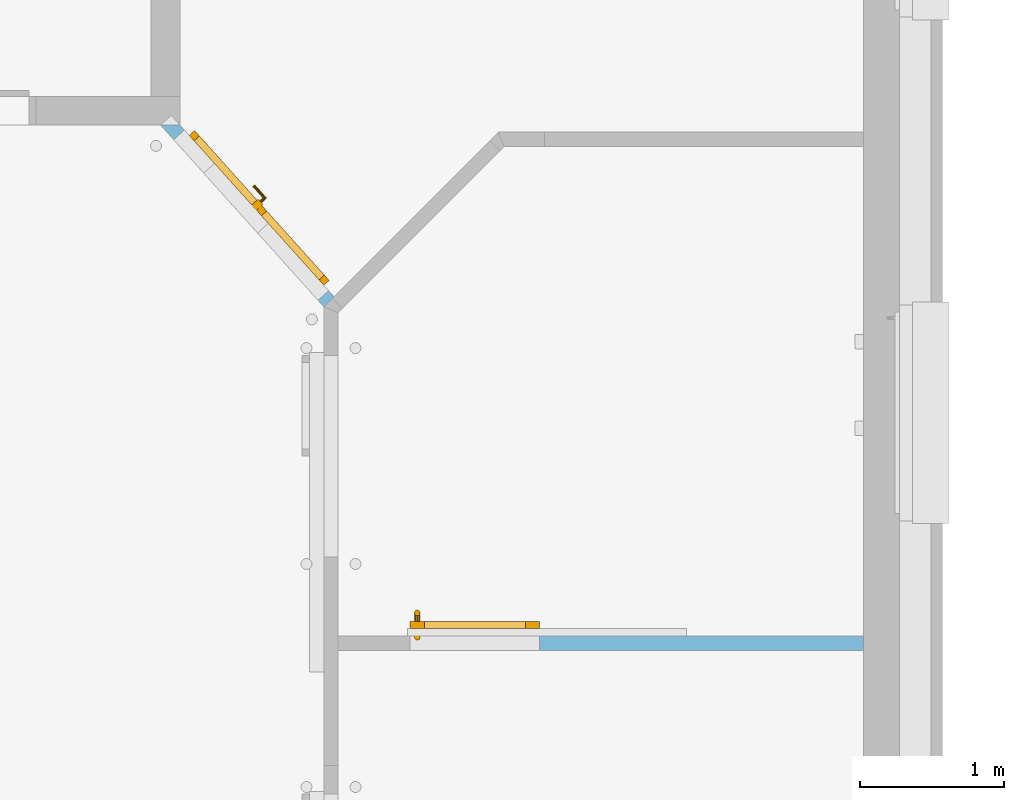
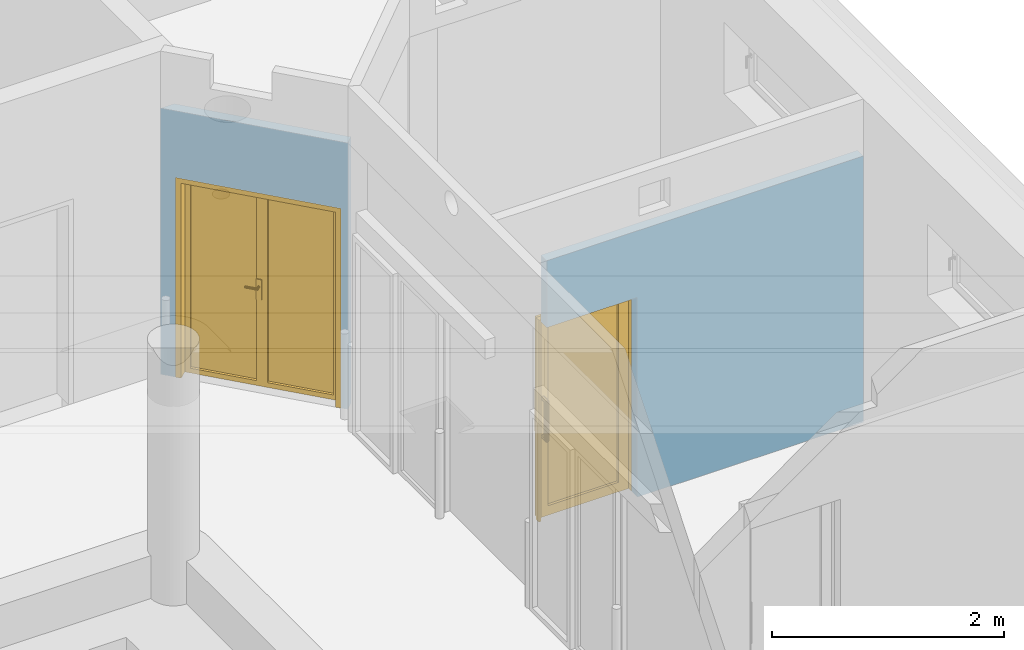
# One storey, part 116 of 140: 2 doors, 2 openings, plus 2 elements that do not belong to this part.
"""IFC4 building model written with IfcOpenShell, lengths in metres."""

from ifc_helpers import new_model, entity, si_unit, converted_unit, derived_unit, frame, frame_2d, origin, origin_with_axes, place, context, subcontext, project, spatial, polyline, rectangle, outline, extrude, closed_shell, open_shell, surface_model, source, transform, mapped, material, layer, layer_set, layer_usage, type_object, element, fill, save


model = new_model("IFC4")

# Units and contexts
model_context = context("Model", 3, precision=1e-05, world=origin())
body_context = subcontext(model_context, "Body", "Model", "MODEL_VIEW")
ifc_project = project(units=[si_unit("LENGTHUNIT", "METRE"), si_unit("AREAUNIT", "SQUARE_METRE"), si_unit("VOLUMEUNIT", "CUBIC_METRE"), si_unit("MASSUNIT", "GRAM", prefix="KILO"), converted_unit("PLANEANGLEUNIT", "DEGREE", entity("IfcPlaneAngleMeasure", 0.0174532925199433), si_unit("PLANEANGLEUNIT", "RADIAN"), dimensions=[0, 0, 0, 0, 0, 0, 0]), derived_unit("THERMALTRANSMITTANCEUNIT", [(si_unit("POWERUNIT", "WATT"), 1), (si_unit("THERMODYNAMICTEMPERATUREUNIT", "KELVIN"), -1), (si_unit("LENGTHUNIT", "METRE"), -2)]), derived_unit("VOLUMETRICFLOWRATEUNIT", [(si_unit("LENGTHUNIT", "METRE"), 3), (converted_unit("TIMEUNIT", "hour", entity("IfcTimeMeasure", 3600.0), si_unit("TIMEUNIT", "SECOND"), dimensions=[0, 0, 1, 0, 0, 0, 0]), -1), (si_unit("LENGTHUNIT", "METRE"), -1)])], contexts=[model_context])

# Site, building, storey
site_placement = place(None, origin())
site = spatial("IfcSite", under=ifc_project, at=site_placement, Name="3. ASŘ", CompositionType="ELEMENT")
building_placement = place(site_placement, origin())
building = spatial("IfcBuilding", under=site, at=building_placement, Name="Pavilon C", CompositionType="ELEMENT")
storey_placement = place(building_placement, origin())
storey = spatial("IfcBuildingStorey", under=building, at=storey_placement, Name="Půdorys 1.NP", CompositionType="ELEMENT", Elevation=0.0)

# Wall, opening, door
ifc_material_1 = material(Name="PROSKLENÁ PŘÍČKA DVOJITÁ")
ifc_layer_1 = layer(ifc_material_1, 0.0999999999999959)
ifc_layer_set_1 = layer_set([ifc_layer_1])
ifc_layer_usage_1 = layer_usage(ifc_layer_set_1, "AXIS2", "POSITIVE", 0.0)
wall_1_placement = place(storey_placement, frame((58.665792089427, 27.65, 0.0), z_axis=(0.0, 0.0, 1.0), x_axis=(0.668228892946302, -0.743955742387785, 0.0)))
wall_1 = element("IfcWall", 1, at=wall_1_placement, inside=storey, material=ifc_layer_usage_1, Name="PROSKLENÁ PŘÍČKA DVOJITÁ", context=body_context, shape_type="SweptSolid", body=[
    extrude(outline(polyline([(-0.939423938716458, 0.843800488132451), (0.757910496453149, 0.843800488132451), (0.752548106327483, 0.943800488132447), (-0.849602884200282, 0.943800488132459), (-0.939423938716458, 0.843800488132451)])), frame((0.939423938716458, -0.843800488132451, 0.0), z_axis=(0.0, 0.0, 1.0), x_axis=(1.0, 0.0, 0.0)), (0.0, 0.0, 1.0), 2.8),
])
opening_1_placement = place(wall_1_placement, frame((0.136584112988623, 6.25277607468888e-16, 0.0), z_axis=(5.68434188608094e-15, 1.0, 0.0), x_axis=(0.0, 0.0, 1.0)))
opening_1 = element("IfcOpeningElement", 2, at=opening_1_placement, cuts=wall_1, Name="Dveřní otvor", ObjectType="Opening", context=body_context, shape_type="SweptSolid", body=[
    extrude(outline(polyline([(0.0, 1.49999999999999), (2.1, 1.49999999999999), (2.1, 0.0), (0.0, 0.0), (0.0, 1.49999999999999)])), origin_with_axes(), (0.0, 0.0, 1.0), 0.100000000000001),
])
door_type_1 = type_object("IfcDoorType", Name="I.DH20", OperationType="NOTDEFINED", ParameterTakesPrecedence=False, PredefinedType="DOOR")
shared_shape_1 = source(origin_with_axes(), body_context, "Body", "SurfaceModel", [
    surface_model("IfcShellBasedSurfaceModel", [(0.0, 0.1, 2.1), (0.0, 0.1, 8.08762071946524e-18), (0.05, 0.1, 8.08762071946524e-18), (0.05, 0.1, 2.1), (0.0, 0.0, 2.03340887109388e-17), (0.0, 2.55795384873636e-16, 2.1), (0.05, 2.55795384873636e-16, 2.1), (0.05, 0.0, 2.03340887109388e-17)], [closed_shell([[[0, 1, 2, 3]], [[4, 5, 6, 7]], [[1, 0, 5, 4]], [[2, 1, 4, 7]], [[3, 2, 7, 6]], [[0, 3, 6, 5]]], orient=[[False], [False], [False], [False], [False], [False]])]),
    surface_model("IfcShellBasedSurfaceModel", [(1.45, 0.1, 2.1), (1.45, 0.1, 8.08762071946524e-18), (1.5, 0.1, 8.08762071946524e-18), (1.5, 0.1, 2.1), (1.45, 0.0, 2.03340887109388e-17), (1.45, 2.55795384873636e-16, 2.1), (1.5, 2.55795384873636e-16, 2.1), (1.5, 0.0, 2.03340887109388e-17)], [closed_shell([[[0, 1, 2, 3]], [[4, 5, 6, 7]], [[1, 0, 5, 4]], [[2, 1, 4, 7]], [[3, 2, 7, 6]], [[0, 3, 6, 5]]], orient=[[False], [False], [False], [False], [False], [False]])]),
    surface_model("IfcShellBasedSurfaceModel", [(0.05, 0.1, 2.1), (0.05, 0.1, 2.05), (1.45, 0.1, 2.05), (1.45, 0.1, 2.1), (0.05, 2.55795384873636e-16, 2.05), (0.05, 2.55795384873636e-16, 2.1), (1.45, 2.55795384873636e-16, 2.1), (1.45, 2.55795384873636e-16, 2.05)], [closed_shell([[[0, 1, 2, 3]], [[4, 5, 6, 7]], [[1, 0, 5, 4]], [[2, 1, 4, 7]], [[3, 2, 7, 6]], [[0, 3, 6, 5]]], orient=[[False], [False], [False], [False], [False], [False]])]),
    surface_model("IfcShellBasedSurfaceModel", [(0.05, 0.15, 2.05), (0.05, 0.15, 1.96438672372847e-18), (0.1, 0.15, 1.96438672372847e-18), (0.1, 0.15, 2.05), (0.05, 0.1, 8.08762071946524e-18), (0.05, 0.1, 2.05), (0.1, 0.1, 2.05), (0.1, 0.1, 8.08762071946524e-18)], [closed_shell([[[0, 1, 2, 3]], [[4, 5, 6, 7]], [[1, 0, 5, 4]], [[2, 1, 4, 7]], [[3, 2, 7, 6]], [[0, 3, 6, 5]]], orient=[[False], [False], [False], [False], [False], [False]])]),
    surface_model("IfcShellBasedSurfaceModel", [(0.6995, 0.15, 2.05), (0.6995, 0.15, 1.96438672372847e-18), (0.7495, 0.15, 1.96438672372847e-18), (0.7495, 0.15, 2.05), (0.6995, 0.1, 8.08762071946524e-18), (0.6995, 0.1, 2.05), (0.7495, 0.1, 2.05), (0.7495, 0.1, 8.08762071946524e-18)], [closed_shell([[[0, 1, 2, 3]], [[4, 5, 6, 7]], [[1, 0, 5, 4]], [[2, 1, 4, 7]], [[3, 2, 7, 6]], [[0, 3, 6, 5]]], orient=[[False], [False], [False], [False], [False], [False]])]),
    surface_model("IfcShellBasedSurfaceModel", [(0.1, 0.15, 0.05), (0.1, 0.15, 1.96438672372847e-18), (0.6995, 0.15, 1.96438672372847e-18), (0.6995, 0.15, 0.05), (0.1, 0.1, 8.08762071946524e-18), (0.1, 0.1, 0.05), (0.6995, 0.1, 0.05), (0.6995, 0.1, 8.08762071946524e-18)], [closed_shell([[[0, 1, 2, 3]], [[4, 5, 6, 7]], [[1, 0, 5, 4]], [[2, 1, 4, 7]], [[3, 2, 7, 6]], [[0, 3, 6, 5]]], orient=[[False], [False], [False], [False], [False], [False]])]),
    surface_model("IfcShellBasedSurfaceModel", [(0.1, 0.15, 2.05), (0.1, 0.15, 2.0), (0.6995, 0.15, 2.0), (0.6995, 0.15, 2.05), (0.1, 0.1, 2.0), (0.1, 0.1, 2.05), (0.6995, 0.1, 2.05), (0.6995, 0.1, 2.0)], [closed_shell([[[0, 1, 2, 3]], [[4, 5, 6, 7]], [[1, 0, 5, 4]], [[2, 1, 4, 7]], [[3, 2, 7, 6]], [[0, 3, 6, 5]]], orient=[[False], [False], [False], [False], [False], [False]])]),
    surface_model("IfcShellBasedSurfaceModel", [(0.6995, 0.1, 1.125), (0.6995, 0.1, 0.91), (0.7495, 0.1, 0.91), (0.7495, 0.1, 1.125), (0.6995, 0.0900000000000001, 0.91), (0.6995, 0.0900000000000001, 1.125), (0.7495, 0.0900000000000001, 1.125), (0.7495, 0.0900000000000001, 0.91)], [closed_shell([[[0, 1, 2, 3]], [[4, 5, 6, 7]], [[1, 0, 5, 4]], [[2, 1, 4, 7]], [[3, 2, 7, 6]], [[0, 3, 6, 5]]], orient=[[False], [False], [False], [False], [False], [False]])]),
    surface_model("IfcShellBasedSurfaceModel", [(0.7245, 0.0900000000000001, 1.06), (0.7195, 0.0900000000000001, 1.05866025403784), (0.715839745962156, 0.0900000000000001, 1.055), (0.7145, 0.0900000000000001, 1.05), (0.715839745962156, 0.0900000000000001, 1.045), (0.7195, 0.0900000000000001, 1.04133974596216), (0.7245, 0.0900000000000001, 1.04), (0.7295, 0.0900000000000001, 1.04133974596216), (0.733160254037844, 0.0900000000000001, 1.045), (0.7345, 0.0900000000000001, 1.05), (0.733160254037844, 0.0900000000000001, 1.055), (0.7295, 0.0900000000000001, 1.05866025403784), (0.7295, 0.0450000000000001, 1.05866025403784), (0.7245, 0.0500000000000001, 1.06), (0.733160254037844, 0.0413397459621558, 1.055), (0.7345, 0.0400000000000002, 1.05), (0.733160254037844, 0.0413397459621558, 1.045), (0.7295, 0.0450000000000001, 1.04133974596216), (0.7245, 0.0500000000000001, 1.04), (0.7195, 0.0550000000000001, 1.04133974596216), (0.715839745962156, 0.0586602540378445, 1.045), (0.7145, 0.0600000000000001, 1.05), (0.715839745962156, 0.0586602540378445, 1.055), (0.7195, 0.0550000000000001, 1.05866025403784), (0.6095, 0.0450000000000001, 1.05866025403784), (0.6095, 0.0500000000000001, 1.06), (0.6095, 0.0413397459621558, 1.055), (0.6095, 0.0400000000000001, 1.05), (0.6095, 0.0413397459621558, 1.045), (0.6095, 0.0450000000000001, 1.04133974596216), (0.6095, 0.0500000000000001, 1.04), (0.6095, 0.0550000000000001, 1.04133974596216), (0.6095, 0.0586602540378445, 1.045), (0.6095, 0.0600000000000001, 1.05), (0.6095, 0.0586602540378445, 1.055), (0.6095, 0.0550000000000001, 1.05866025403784)], [open_shell([[[0, 1, 2, 3, 4, 5, 6, 7, 8, 9, 10, 11]], [[0, 11, 12, 13]], [[11, 10, 14, 12]], [[10, 9, 15, 14]], [[9, 8, 16, 15]], [[8, 7, 17, 16]], [[7, 6, 18, 17]], [[6, 5, 19, 18]], [[5, 4, 20, 19]], [[4, 3, 21, 20]], [[3, 2, 22, 21]], [[2, 1, 23, 22]], [[1, 0, 13, 23]], [[13, 12, 24, 25]], [[12, 14, 26, 24]], [[14, 15, 27, 26]], [[15, 16, 28, 27]], [[16, 17, 29, 28]], [[17, 18, 30, 29]], [[18, 19, 31, 30]], [[19, 20, 32, 31]], [[20, 21, 33, 32]], [[21, 22, 34, 33]], [[22, 23, 35, 34]], [[23, 13, 25, 35]]], orient=[[False], [False], [False], [False], [False], [False], [False], [False], [False], [False], [False], [False], [False], [False], [False], [False], [False], [False], [False], [False], [False], [False], [False], [False], [False]])]),
    surface_model("IfcShellBasedSurfaceModel", [(0.6995, 0.15, 1.125), (0.7495, 0.15, 1.125), (0.7495, 0.15, 0.91), (0.6995, 0.15, 0.91), (0.6995, 0.16, 0.91), (0.7495, 0.16, 0.91), (0.7495, 0.16, 1.125), (0.6995, 0.16, 1.125)], [closed_shell([[[0, 1, 2, 3]], [[4, 5, 6, 7]], [[3, 4, 7, 0]], [[2, 5, 4, 3]], [[1, 6, 5, 2]], [[0, 7, 6, 1]]], orient=[[False], [False], [False], [False], [False], [False]])]),
    surface_model("IfcShellBasedSurfaceModel", [(0.7245, 0.16, 1.06), (0.7295, 0.16, 1.05866025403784), (0.733160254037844, 0.16, 1.055), (0.7345, 0.16, 1.05), (0.733160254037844, 0.16, 1.045), (0.7295, 0.16, 1.04133974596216), (0.7245, 0.16, 1.04), (0.7195, 0.16, 1.04133974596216), (0.715839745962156, 0.16, 1.045), (0.7145, 0.16, 1.05), (0.715839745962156, 0.16, 1.055), (0.7195, 0.16, 1.05866025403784), (0.7245, 0.2, 1.06), (0.7295, 0.205, 1.05866025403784), (0.733160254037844, 0.208660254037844, 1.055), (0.7345, 0.21, 1.05), (0.733160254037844, 0.208660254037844, 1.045), (0.7295, 0.205, 1.04133974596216), (0.7245, 0.2, 1.04), (0.7195, 0.195, 1.04133974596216), (0.715839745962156, 0.191339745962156, 1.045), (0.7145, 0.19, 1.05), (0.715839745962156, 0.191339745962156, 1.055), (0.7195, 0.195, 1.05866025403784), (0.6095, 0.2, 1.06), (0.6095, 0.205, 1.05866025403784), (0.6095, 0.208660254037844, 1.055), (0.6095, 0.21, 1.05), (0.6095, 0.208660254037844, 1.045), (0.6095, 0.205, 1.04133974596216), (0.6095, 0.2, 1.04), (0.6095, 0.195, 1.04133974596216), (0.6095, 0.191339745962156, 1.045), (0.6095, 0.19, 1.05), (0.6095, 0.191339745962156, 1.055), (0.6095, 0.195, 1.05866025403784)], [open_shell([[[0, 1, 2, 3, 4, 5, 6, 7, 8, 9, 10, 11]], [[0, 12, 13, 1]], [[1, 13, 14, 2]], [[2, 14, 15, 3]], [[3, 15, 16, 4]], [[4, 16, 17, 5]], [[5, 17, 18, 6]], [[6, 18, 19, 7]], [[7, 19, 20, 8]], [[8, 20, 21, 9]], [[9, 21, 22, 10]], [[10, 22, 23, 11]], [[11, 23, 12, 0]], [[12, 24, 25, 13]], [[13, 25, 26, 14]], [[14, 26, 27, 15]], [[15, 27, 28, 16]], [[16, 28, 29, 17]], [[17, 29, 30, 18]], [[18, 30, 31, 19]], [[19, 31, 32, 20]], [[20, 32, 33, 21]], [[21, 33, 34, 22]], [[22, 34, 35, 23]], [[23, 35, 24, 12]]], orient=[[False], [False], [False], [False], [False], [False], [False], [False], [False], [False], [False], [False], [False], [False], [False], [False], [False], [False], [False], [False], [False], [False], [False], [False], [False]])]),
    surface_model("IfcShellBasedSurfaceModel", [(0.7505, 0.15, 2.05), (0.7505, 0.15, 1.96438672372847e-18), (0.8005, 0.15, 1.96438672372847e-18), (0.8005, 0.15, 2.05), (0.7505, 0.1, 8.08762071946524e-18), (0.7505, 0.1, 2.05), (0.8005, 0.1, 2.05), (0.8005, 0.1, 8.08762071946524e-18)], [closed_shell([[[0, 1, 2, 3]], [[4, 5, 6, 7]], [[1, 0, 5, 4]], [[2, 1, 4, 7]], [[3, 2, 7, 6]], [[0, 3, 6, 5]]], orient=[[False], [False], [False], [False], [False], [False]])]),
    surface_model("IfcShellBasedSurfaceModel", [(1.4, 0.15, 2.05), (1.4, 0.15, 1.96438672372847e-18), (1.45, 0.15, 1.96438672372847e-18), (1.45, 0.15, 2.05), (1.4, 0.1, 8.08762071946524e-18), (1.4, 0.1, 2.05), (1.45, 0.1, 2.05), (1.45, 0.1, 8.08762071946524e-18)], [closed_shell([[[0, 1, 2, 3]], [[4, 5, 6, 7]], [[1, 0, 5, 4]], [[2, 1, 4, 7]], [[3, 2, 7, 6]], [[0, 3, 6, 5]]], orient=[[False], [False], [False], [False], [False], [False]])]),
    surface_model("IfcShellBasedSurfaceModel", [(0.8005, 0.15, 0.05), (0.8005, 0.15, 1.96438672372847e-18), (1.4, 0.15, 1.96438672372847e-18), (1.4, 0.15, 0.05), (0.8005, 0.1, 8.08762071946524e-18), (0.8005, 0.1, 0.05), (1.4, 0.1, 0.05), (1.4, 0.1, 8.08762071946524e-18)], [closed_shell([[[0, 1, 2, 3]], [[4, 5, 6, 7]], [[1, 0, 5, 4]], [[2, 1, 4, 7]], [[3, 2, 7, 6]], [[0, 3, 6, 5]]], orient=[[False], [False], [False], [False], [False], [False]])]),
    surface_model("IfcShellBasedSurfaceModel", [(0.8005, 0.15, 2.05), (0.8005, 0.15, 2.0), (1.4, 0.15, 2.0), (1.4, 0.15, 2.05), (0.8005, 0.1, 2.0), (0.8005, 0.1, 2.05), (1.4, 0.1, 2.05), (1.4, 0.1, 2.0)], [closed_shell([[[0, 1, 2, 3]], [[4, 5, 6, 7]], [[1, 0, 5, 4]], [[2, 1, 4, 7]], [[3, 2, 7, 6]], [[0, 3, 6, 5]]], orient=[[False], [False], [False], [False], [False], [False]])]),
    surface_model("IfcShellBasedSurfaceModel", [(0.1, 0.125, 0.05), (0.6995, 0.125, 0.05), (0.6995, 0.125, 2.0), (0.1, 0.125, 2.0)], [open_shell([[[0, 1, 2, 3]]], orient=[[False]])]),
    surface_model("IfcShellBasedSurfaceModel", [(0.8005, 0.125, 0.05), (1.4, 0.125, 0.05), (1.4, 0.125, 2.0), (0.8005, 0.125, 2.0)], [open_shell([[[0, 1, 2, 3]]], orient=[[False]])]),
])
door_1_placement = place(opening_1_placement, frame((0.0, 7.27595761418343e-15, 1.45519152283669e-14), z_axis=(1.0, 0.0, 0.0), x_axis=(0.0, 1.0, -5.99520433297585e-15)))
door_1 = element("IfcDoor", 3, at=door_1_placement, inside=storey, type_object=door_type_1, Name="I.DH20", OverallHeight=2.1, OverallWidth=1.5, context=body_context, shape_type="MappedRepresentation", body=[
    mapped(shared_shape_1, transform((0.0, 0.0, 0.0), x_axis=(1.0, 0.0, 0.0), y_axis=(0.0, 1.0, 0.0), z_axis=(0.0, 0.0, 1.0), scale=1.0)),
])
fill(opening_1, door_1)

ifc_material_2 = material(Name="PROSKLENÁ PŘÍČKA DVOJITÁ")
ifc_layer_2 = layer(ifc_material_2, 0.1)
ifc_layer_set_2 = layer_set([ifc_layer_2])
ifc_layer_usage_2 = layer_usage(ifc_layer_set_2, "AXIS2", "POSITIVE", 0.0)
wall_2_placement = place(storey_placement, frame((60.4, 24.0, 0.0)))
wall_2 = element("IfcWall", 4, at=wall_2_placement, inside=storey, material=ifc_layer_usage_2, Name="PROSKLENÁ PŘÍČKA DVOJITÁ", context=body_context, shape_type="SweptSolid", body=[
    extrude(rectangle(XDim=3.15, YDim=0.1, at=frame_2d((1.575, 0.05), x_axis=(1.0, 0.0))), origin_with_axes(), (0.0, 0.0, 1.0), 2.8),
])
opening_2_placement = place(wall_2_placement, frame((0.0, 0.0, 0.0), z_axis=(0.0, 1.0, 0.0), x_axis=(0.0, 0.0, 1.0)))
opening_2 = element("IfcOpeningElement", 5, at=opening_2_placement, cuts=wall_2, Name="Dveřní otvor", ObjectType="Opening", context=body_context, shape_type="SweptSolid", body=[
    extrude(outline(polyline([(0.0, 0.9), (2.1, 0.9), (2.1, 0.0), (0.0, 0.0), (0.0, 0.9)])), origin_with_axes(), (0.0, 0.0, 1.0), 0.1),
])
door_type_2 = type_object("IfcDoorType", Name="I.DHP04", OperationType="NOTDEFINED", ParameterTakesPrecedence=False, PredefinedType="DOOR")
shared_shape_2 = source(origin_with_axes(), body_context, "Body", "SurfaceModel", [
    surface_model("IfcShellBasedSurfaceModel", [(0.0, 0.0800000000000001, 2.12), (0.0, 0.0799999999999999, 1.11492377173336e-17), (0.02, 0.0799999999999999, 1.11492377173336e-17), (0.02, 0.0800000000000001, 2.12), (0.0, 0.0299999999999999, 1.72724717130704e-17), (0.0, 0.0300000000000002, 2.12), (0.02, 0.0300000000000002, 2.12), (0.02, 0.0299999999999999, 1.72724717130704e-17)], [closed_shell([[[0, 1, 2, 3]], [[4, 5, 6, 7]], [[1, 0, 5, 4]], [[2, 1, 4, 7]], [[3, 2, 7, 6]], [[0, 3, 6, 5]]], orient=[[False], [False], [False], [False], [False], [False]])]),
    surface_model("IfcShellBasedSurfaceModel", [(0.92, 0.0800000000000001, 2.12), (0.92, 0.0799999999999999, 1.11492377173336e-17), (0.94, 0.0799999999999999, 1.11492377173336e-17), (0.94, 0.0800000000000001, 2.12), (0.92, 0.0299999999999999, 1.72724717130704e-17), (0.92, 0.0300000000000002, 2.12), (0.94, 0.0300000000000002, 2.12), (0.94, 0.0299999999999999, 1.72724717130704e-17)], [closed_shell([[[0, 1, 2, 3]], [[4, 5, 6, 7]], [[1, 0, 5, 4]], [[2, 1, 4, 7]], [[3, 2, 7, 6]], [[0, 3, 6, 5]]], orient=[[False], [False], [False], [False], [False], [False]])]),
    surface_model("IfcShellBasedSurfaceModel", [(0.02, 0.0800000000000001, 2.12), (0.02, 0.0800000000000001, 2.1), (0.92, 0.0800000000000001, 2.1), (0.92, 0.0800000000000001, 2.12), (0.02, 0.0300000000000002, 2.1), (0.02, 0.0300000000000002, 2.12), (0.92, 0.0300000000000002, 2.12), (0.92, 0.0300000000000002, 2.1)], [closed_shell([[[0, 1, 2, 3]], [[4, 5, 6, 7]], [[1, 0, 5, 4]], [[2, 1, 4, 7]], [[3, 2, 7, 6]], [[0, 3, 6, 5]]], orient=[[False], [False], [False], [False], [False], [False]])]),
    surface_model("IfcShellBasedSurfaceModel", [(0.02, 0.13, 2.1), (0.02, 0.13, 5.02600372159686e-18), (0.12, 0.13, 5.02600372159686e-18), (0.12, 0.13, 2.1), (0.02, 0.0799999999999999, 1.11492377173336e-17), (0.02, 0.0800000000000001, 2.1), (0.12, 0.0800000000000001, 2.1), (0.12, 0.0799999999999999, 1.11492377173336e-17)], [closed_shell([[[0, 1, 2, 3]], [[4, 5, 6, 7]], [[1, 0, 5, 4]], [[2, 1, 4, 7]], [[3, 2, 7, 6]], [[0, 3, 6, 5]]], orient=[[False], [False], [False], [False], [False], [False]])]),
    surface_model("IfcShellBasedSurfaceModel", [(0.82, 0.13, 2.1), (0.82, 0.13, 5.02600372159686e-18), (0.92, 0.13, 5.02600372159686e-18), (0.92, 0.13, 2.1), (0.82, 0.0799999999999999, 1.11492377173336e-17), (0.82, 0.0800000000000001, 2.1), (0.92, 0.0800000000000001, 2.1), (0.92, 0.0799999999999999, 1.11492377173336e-17)], [closed_shell([[[0, 1, 2, 3]], [[4, 5, 6, 7]], [[1, 0, 5, 4]], [[2, 1, 4, 7]], [[3, 2, 7, 6]], [[0, 3, 6, 5]]], orient=[[False], [False], [False], [False], [False], [False]])]),
    surface_model("IfcShellBasedSurfaceModel", [(0.12, 0.13, 0.1), (0.12, 0.13, 5.02600372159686e-18), (0.82, 0.13, 5.02600372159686e-18), (0.82, 0.13, 0.1), (0.12, 0.0799999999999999, 1.11492377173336e-17), (0.12, 0.0799999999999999, 0.1), (0.82, 0.0799999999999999, 0.1), (0.82, 0.0799999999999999, 1.11492377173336e-17)], [closed_shell([[[0, 1, 2, 3]], [[4, 5, 6, 7]], [[1, 0, 5, 4]], [[2, 1, 4, 7]], [[3, 2, 7, 6]], [[0, 3, 6, 5]]], orient=[[False], [False], [False], [False], [False], [False]])]),
    surface_model("IfcShellBasedSurfaceModel", [(0.12, 0.13, 2.1), (0.12, 0.13, 2.0), (0.82, 0.13, 2.0), (0.82, 0.13, 2.1), (0.12, 0.0800000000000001, 2.0), (0.12, 0.0800000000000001, 2.1), (0.82, 0.0800000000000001, 2.1), (0.82, 0.0800000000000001, 2.0)], [closed_shell([[[0, 1, 2, 3]], [[4, 5, 6, 7]], [[1, 0, 5, 4]], [[2, 1, 4, 7]], [[3, 2, 7, 6]], [[0, 3, 6, 5]]], orient=[[False], [False], [False], [False], [False], [False]])]),
    surface_model("IfcShellBasedSurfaceModel", [(0.89, 0.08, 1.25), (0.887320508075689, 0.08, 1.26), (0.88, 0.08, 1.26732050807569), (0.87, 0.08, 1.27), (0.86, 0.08, 1.26732050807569), (0.852679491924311, 0.08, 1.26), (0.85, 0.08, 1.25), (0.852679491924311, 0.08, 1.24), (0.86, 0.08, 1.23267949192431), (0.87, 0.08, 1.23), (0.88, 0.08, 1.23267949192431), (0.887320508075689, 0.08, 1.24), (0.89, 0.0200000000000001, 1.25), (0.887320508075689, 0.0100000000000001, 1.26), (0.88, 0.00267949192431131, 1.26732050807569), (0.87, 7.105427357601e-17, 1.27), (0.86, 0.00267949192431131, 1.26732050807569), (0.852679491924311, 0.0100000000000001, 1.26), (0.85, 0.0200000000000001, 1.25), (0.852679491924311, 0.0300000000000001, 1.24), (0.86, 0.0373205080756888, 1.23267949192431), (0.87, 0.0400000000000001, 1.23), (0.88, 0.0373205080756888, 1.23267949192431), (0.887320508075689, 0.0300000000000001, 1.24), (0.89, 0.02, 0.85), (0.887320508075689, 0.01, 0.84), (0.88, 0.00267949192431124, 0.832679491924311), (0.87, 0.0, 0.83), (0.86, 0.00267949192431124, 0.832679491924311), (0.852679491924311, 0.01, 0.84), (0.85, 0.02, 0.85), (0.852679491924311, 0.03, 0.86), (0.86, 0.0373205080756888, 0.867320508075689), (0.87, 0.04, 0.87), (0.88, 0.0373205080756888, 0.867320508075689), (0.887320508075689, 0.03, 0.86), (0.89, 0.08, 0.85), (0.887320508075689, 0.08, 0.84), (0.88, 0.08, 0.832679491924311), (0.87, 0.08, 0.83), (0.86, 0.08, 0.832679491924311), (0.852679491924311, 0.08, 0.84), (0.85, 0.08, 0.85), (0.852679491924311, 0.08, 0.86), (0.86, 0.08, 0.867320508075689), (0.87, 0.08, 0.87), (0.88, 0.08, 0.867320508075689), (0.887320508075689, 0.08, 0.86)], [open_shell([[[0, 1, 2, 3, 4, 5, 6, 7, 8, 9, 10, 11]], [[0, 12, 13, 1]], [[1, 13, 14, 2]], [[2, 14, 15, 3]], [[3, 15, 16, 4]], [[4, 16, 17, 5]], [[5, 17, 18, 6]], [[6, 18, 19, 7]], [[7, 19, 20, 8]], [[8, 20, 21, 9]], [[9, 21, 22, 10]], [[10, 22, 23, 11]], [[11, 23, 12, 0]], [[12, 24, 25, 13]], [[13, 25, 26, 14]], [[14, 26, 27, 15]], [[15, 27, 28, 16]], [[16, 28, 29, 17]], [[17, 29, 30, 18]], [[18, 30, 31, 19]], [[19, 31, 32, 20]], [[20, 32, 33, 21]], [[21, 33, 34, 22]], [[22, 34, 35, 23]], [[23, 35, 24, 12]], [[24, 36, 37, 25]], [[25, 37, 38, 26]], [[26, 38, 39, 27]], [[27, 39, 40, 28]], [[28, 40, 41, 29]], [[29, 41, 42, 30]], [[30, 42, 43, 31]], [[31, 43, 44, 32]], [[32, 44, 45, 33]], [[33, 45, 46, 34]], [[34, 46, 47, 35]], [[35, 47, 36, 24]]], orient=[[False], [False], [False], [False], [False], [False], [False], [False], [False], [False], [False], [False], [False], [False], [False], [False], [False], [False], [False], [False], [False], [False], [False], [False], [False], [False], [False], [False], [False], [False], [False], [False], [False], [False], [False], [False], [False]])]),
    surface_model("IfcShellBasedSurfaceModel", [(0.89, 0.13, 1.25), (0.887320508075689, 0.13, 1.24), (0.88, 0.13, 1.23267949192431), (0.87, 0.13, 1.23), (0.86, 0.13, 1.23267949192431), (0.852679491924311, 0.13, 1.24), (0.85, 0.13, 1.25), (0.852679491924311, 0.13, 1.26), (0.86, 0.13, 1.26732050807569), (0.87, 0.13, 1.27), (0.88, 0.13, 1.26732050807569), (0.887320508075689, 0.13, 1.26), (0.887320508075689, 0.2, 1.26), (0.89, 0.19, 1.25), (0.88, 0.207320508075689, 1.26732050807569), (0.87, 0.21, 1.27), (0.86, 0.207320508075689, 1.26732050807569), (0.852679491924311, 0.2, 1.26), (0.85, 0.19, 1.25), (0.852679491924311, 0.18, 1.24), (0.86, 0.172679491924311, 1.23267949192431), (0.87, 0.17, 1.23), (0.88, 0.172679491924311, 1.23267949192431), (0.887320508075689, 0.18, 1.24), (0.887320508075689, 0.2, 0.84), (0.89, 0.19, 0.85), (0.88, 0.207320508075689, 0.832679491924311), (0.87, 0.21, 0.83), (0.86, 0.207320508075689, 0.832679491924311), (0.852679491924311, 0.2, 0.84), (0.85, 0.19, 0.85), (0.852679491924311, 0.18, 0.86), (0.86, 0.172679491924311, 0.867320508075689), (0.87, 0.17, 0.87), (0.88, 0.172679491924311, 0.867320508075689), (0.887320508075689, 0.18, 0.86), (0.887320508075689, 0.13, 0.84), (0.89, 0.13, 0.85), (0.88, 0.13, 0.832679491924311), (0.87, 0.13, 0.83), (0.86, 0.13, 0.832679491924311), (0.852679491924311, 0.13, 0.84), (0.85, 0.13, 0.85), (0.852679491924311, 0.13, 0.86), (0.86, 0.13, 0.867320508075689), (0.87, 0.13, 0.87), (0.88, 0.13, 0.867320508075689), (0.887320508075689, 0.13, 0.86)], [open_shell([[[0, 1, 2, 3, 4, 5, 6, 7, 8, 9, 10, 11]], [[0, 11, 12, 13]], [[11, 10, 14, 12]], [[10, 9, 15, 14]], [[9, 8, 16, 15]], [[8, 7, 17, 16]], [[7, 6, 18, 17]], [[6, 5, 19, 18]], [[5, 4, 20, 19]], [[4, 3, 21, 20]], [[3, 2, 22, 21]], [[2, 1, 23, 22]], [[1, 0, 13, 23]], [[13, 12, 24, 25]], [[12, 14, 26, 24]], [[14, 15, 27, 26]], [[15, 16, 28, 27]], [[16, 17, 29, 28]], [[17, 18, 30, 29]], [[18, 19, 31, 30]], [[19, 20, 32, 31]], [[20, 21, 33, 32]], [[21, 22, 34, 33]], [[22, 23, 35, 34]], [[23, 13, 25, 35]], [[25, 24, 36, 37]], [[24, 26, 38, 36]], [[26, 27, 39, 38]], [[27, 28, 40, 39]], [[28, 29, 41, 40]], [[29, 30, 42, 41]], [[30, 31, 43, 42]], [[31, 32, 44, 43]], [[32, 33, 45, 44]], [[33, 34, 46, 45]], [[34, 35, 47, 46]], [[35, 25, 37, 47]]], orient=[[False], [False], [False], [False], [False], [False], [False], [False], [False], [False], [False], [False], [False], [False], [False], [False], [False], [False], [False], [False], [False], [False], [False], [False], [False], [False], [False], [False], [False], [False], [False], [False], [False], [False], [False], [False], [False]])]),
    surface_model("IfcShellBasedSurfaceModel", [(0.12, 0.105, 0.1), (0.82, 0.105, 0.1), (0.82, 0.105, 2.0), (0.12, 0.105, 2.0)], [open_shell([[[0, 1, 2, 3]]], orient=[[False]])]),
])
door_2_placement = place(opening_2_placement, frame((-1.4210854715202e-17, 0.92, 0.07), z_axis=(1.0, 0.0, 0.0), x_axis=(0.0, -1.0, 0.0)))
door_2 = element("IfcDoor", 6, at=door_2_placement, inside=storey, type_object=door_type_2, Name="I.DHP04", OverallHeight=2.14, OverallWidth=0.98, context=body_context, shape_type="MappedRepresentation", body=[
    mapped(shared_shape_2, transform((0.0, 0.0, 0.0), x_axis=(1.0, 0.0, 0.0), y_axis=(0.0, -1.0, 0.0), z_axis=(0.0, 0.0, 1.0), scale=1.0)),
])
fill(opening_2, door_2)

save(model, "model.ifc")
